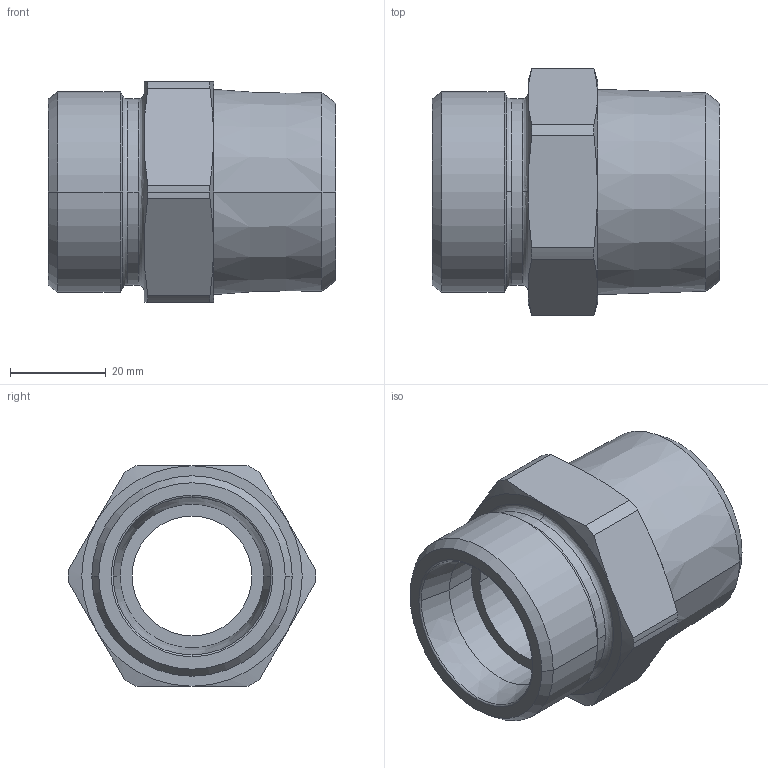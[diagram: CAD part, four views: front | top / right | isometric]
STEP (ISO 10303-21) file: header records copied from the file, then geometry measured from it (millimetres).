
FILE_DESCRIPTION((''),'2;1');
FILE_NAME('101822.stp','2007-10-30T16:14:13',(''),(''),'AutoCAD STEP 2000i','AutoCAD 2000i',', , ');
FILE_SCHEMA(('CONFIG_CONTROL_DESIGN'));
Length unit declared in the file: millimetre
Products named in the file (2): 101822.0; CHIAVE SMUSSATA#0
Assembly tree (1 placements, depth 2):
  101822.0
    CHIAVE SMUSSATA#0
Bounding box: 60 x 51.6 x 46 mm (x, y, z)
Volume: 54754.6 mm3; surface area: 15331.4 mm2
Topology: 1 solids, 1 shells, 59 faces, 143 edges, 89 vertices
Faces by surface type: cone 24, cylinder 16, plane 11, bspline 6, torus 2
Entity records: 2079 total; most frequent: CARTESIAN_POINT 605, DIRECTION 314, ORIENTED_EDGE 286, EDGE_CURVE 143, AXIS2_PLACEMENT_3D 140, VERTEX_POINT 89, CIRCLE 85, EDGE_LOOP 64
